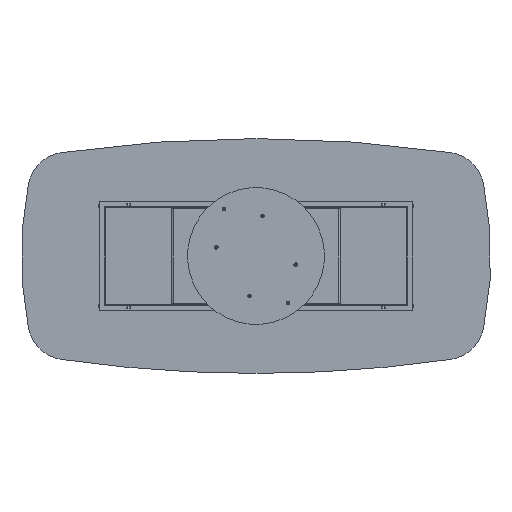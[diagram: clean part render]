
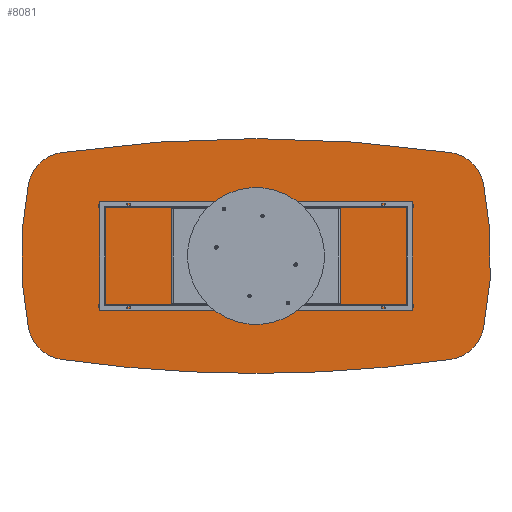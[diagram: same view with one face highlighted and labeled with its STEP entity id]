
A CAD part, front view. The second image highlights one B-rep face of the part: STEP entity #8081.
In plain terms, the highlighted planar face has unit normal (0, -1, 0).
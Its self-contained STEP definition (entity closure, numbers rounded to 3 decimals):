
#159 = CIRCLE ( 'NONE', #13619, 1845. ) ;
#783 = EDGE_LOOP ( 'NONE', ( #16304, #11923, #8657, #7432, #10737, #19519, #17500, #20429, #15055 ) ) ;
#1396 = DIRECTION ( 'NONE',  ( 0., -1., 0. ) ) ;
#1407 = DIRECTION ( 'NONE',  ( 0., 0., 1. ) ) ;
#1642 = EDGE_CURVE ( 'NONE', #17344, #15309, #11133, .T. ) ;
#2599 = CIRCLE ( 'NONE', #14398, 200. ) ;
#2842 = AXIS2_PLACEMENT_3D ( 'NONE', #16795, #5612, #3040 ) ;
#2915 = CARTESIAN_POINT ( 'NONE',  ( -645., 0., 0. ) ) ;
#3040 = DIRECTION ( 'NONE',  ( 0., 0., 1. ) ) ;
#3160 = VERTEX_POINT ( 'NONE', #17279 ) ;
#3242 = CARTESIAN_POINT ( 'NONE',  ( 1162.39, 0., -370.629 ) ) ;
#3385 = AXIS2_PLACEMENT_3D ( 'NONE', #5130, #7039, #5434 ) ;
#3443 = CIRCLE ( 'NONE', #17920, 1845. ) ;
#3921 = EDGE_CURVE ( 'NONE', #19651, #9576, #3443, .T. ) ;
#4113 = AXIS2_PLACEMENT_3D ( 'NONE', #18816, #1396, #14075 ) ;
#4533 = AXIS2_PLACEMENT_3D ( 'NONE', #14175, #20614, #1407 ) ;
#4843 = CIRCLE ( 'NONE', #16624, 200. ) ;
#4864 = CIRCLE ( 'NONE', #4533, 6950. ) ;
#5067 = DIRECTION ( 'NONE',  ( 0., 0., 1. ) ) ;
#5130 = CARTESIAN_POINT ( 'NONE',  ( 0., 0., -6350. ) ) ;
#5211 = CARTESIAN_POINT ( 'NONE',  ( 1162.39, 0., 370.629 ) ) ;
#5434 = DIRECTION ( 'NONE',  ( 0., 0., 1. ) ) ;
#5530 = CIRCLE ( 'NONE', #14969, 6950. ) ;
#5612 = DIRECTION ( 'NONE',  ( 0., 1., 0. ) ) ;
#6606 = DIRECTION ( 'NONE',  ( 0., 0., 1. ) ) ;
#6726 = CARTESIAN_POINT ( 'NONE',  ( 995.103, 0., -528.391 ) ) ;
#6879 = CARTESIAN_POINT ( 'NONE',  ( 966.467, 0., 330.452 ) ) ;
#7039 = DIRECTION ( 'NONE',  ( 0., 1., 0. ) ) ;
#7432 = ORIENTED_EDGE ( 'NONE', *, *, #18791, .T. ) ;
#7436 = DIRECTION ( 'NONE',  ( 0., 1., 0. ) ) ;
#7517 = EDGE_CURVE ( 'NONE', #14020, #15472, #159, .T. ) ;
#7693 = EDGE_CURVE ( 'NONE', #16655, #3160, #5530, .T. ) ;
#7872 = EDGE_CURVE ( 'NONE', #3160, #16148, #4864, .T. ) ;
#8081 = ADVANCED_FACE ( 'NONE', ( #11082 ), #17000, .F. ) ;
#8312 = CARTESIAN_POINT ( 'NONE',  ( 995.103, 0., 528.391 ) ) ;
#8657 = ORIENTED_EDGE ( 'NONE', *, *, #3921, .F. ) ;
#9305 = EDGE_CURVE ( 'NONE', #14020, #15309, #15366, .T. ) ;
#9576 = VERTEX_POINT ( 'NONE', #15638 ) ;
#10196 = CIRCLE ( 'NONE', #4113, 200. ) ;
#10737 = ORIENTED_EDGE ( 'NONE', *, *, #7872, .F. ) ;
#10969 = CARTESIAN_POINT ( 'NONE',  ( -966.467, 0., 330.452 ) ) ;
#11082 = FACE_OUTER_BOUND ( 'NONE', #783, .T. ) ;
#11133 = CIRCLE ( 'NONE', #3385, 6950. ) ;
#11554 = DIRECTION ( 'NONE',  ( 0., 0., 1. ) ) ;
#11588 = DIRECTION ( 'NONE',  ( 0., 0., 1. ) ) ;
#11868 = CARTESIAN_POINT ( 'NONE',  ( 645., 0., 0. ) ) ;
#11923 = ORIENTED_EDGE ( 'NONE', *, *, #12408, .T. ) ;
#12079 = CARTESIAN_POINT ( 'NONE',  ( -995.103, 0., 528.391 ) ) ;
#12408 = EDGE_CURVE ( 'NONE', #17344, #9576, #2599, .T. ) ;
#12443 = DIRECTION ( 'NONE',  ( 0., -1., 0. ) ) ;
#13376 = CARTESIAN_POINT ( 'NONE',  ( -966.467, 0., -330.452 ) ) ;
#13418 = DIRECTION ( 'NONE',  ( 0., -1., 0. ) ) ;
#13520 = CARTESIAN_POINT ( 'NONE',  ( -995.103, 0., -528.391 ) ) ;
#13619 = AXIS2_PLACEMENT_3D ( 'NONE', #2915, #16107, #6606 ) ;
#13870 = DIRECTION ( 'NONE',  ( 0., 0., 1. ) ) ;
#14005 = AXIS2_PLACEMENT_3D ( 'NONE', #6879, #13418, #5067 ) ;
#14020 = VERTEX_POINT ( 'NONE', #5211 ) ;
#14075 = DIRECTION ( 'NONE',  ( 0., 0., 1. ) ) ;
#14175 = CARTESIAN_POINT ( 'NONE',  ( 0., 0., 6350. ) ) ;
#14398 = AXIS2_PLACEMENT_3D ( 'NONE', #10969, #12443, #18871 ) ;
#14969 = AXIS2_PLACEMENT_3D ( 'NONE', #18394, #7436, #13870 ) ;
#15055 = ORIENTED_EDGE ( 'NONE', *, *, #9305, .T. ) ;
#15309 = VERTEX_POINT ( 'NONE', #8312 ) ;
#15366 = CIRCLE ( 'NONE', #14005, 200. ) ;
#15472 = VERTEX_POINT ( 'NONE', #3242 ) ;
#15638 = CARTESIAN_POINT ( 'NONE',  ( -1162.39, 0., 370.629 ) ) ;
#15808 = EDGE_CURVE ( 'NONE', #16655, #15472, #10196, .T. ) ;
#16107 = DIRECTION ( 'NONE',  ( 0., 1., 0. ) ) ;
#16148 = VERTEX_POINT ( 'NONE', #13520 ) ;
#16304 = ORIENTED_EDGE ( 'NONE', *, *, #1642, .F. ) ;
#16624 = AXIS2_PLACEMENT_3D ( 'NONE', #13376, #19712, #11588 ) ;
#16655 = VERTEX_POINT ( 'NONE', #6726 ) ;
#16795 = CARTESIAN_POINT ( 'NONE',  ( -322.5, 0., 3175. ) ) ;
#17000 = PLANE ( 'NONE',  #2842 ) ;
#17279 = CARTESIAN_POINT ( 'NONE',  ( 0., 0., -600. ) ) ;
#17344 = VERTEX_POINT ( 'NONE', #12079 ) ;
#17500 = ORIENTED_EDGE ( 'NONE', *, *, #15808, .T. ) ;
#17920 = AXIS2_PLACEMENT_3D ( 'NONE', #11868, #18285, #11554 ) ;
#18285 = DIRECTION ( 'NONE',  ( 0., 1., 0. ) ) ;
#18394 = CARTESIAN_POINT ( 'NONE',  ( 0., 0., 6350. ) ) ;
#18791 = EDGE_CURVE ( 'NONE', #19651, #16148, #4843, .T. ) ;
#18816 = CARTESIAN_POINT ( 'NONE',  ( 966.467, 0., -330.452 ) ) ;
#18871 = DIRECTION ( 'NONE',  ( 0., 0., 1. ) ) ;
#19519 = ORIENTED_EDGE ( 'NONE', *, *, #7693, .F. ) ;
#19651 = VERTEX_POINT ( 'NONE', #20801 ) ;
#19712 = DIRECTION ( 'NONE',  ( 0., -1., 0. ) ) ;
#20429 = ORIENTED_EDGE ( 'NONE', *, *, #7517, .F. ) ;
#20614 = DIRECTION ( 'NONE',  ( 0., 1., 0. ) ) ;
#20801 = CARTESIAN_POINT ( 'NONE',  ( -1162.39, 0., -370.629 ) ) ;
